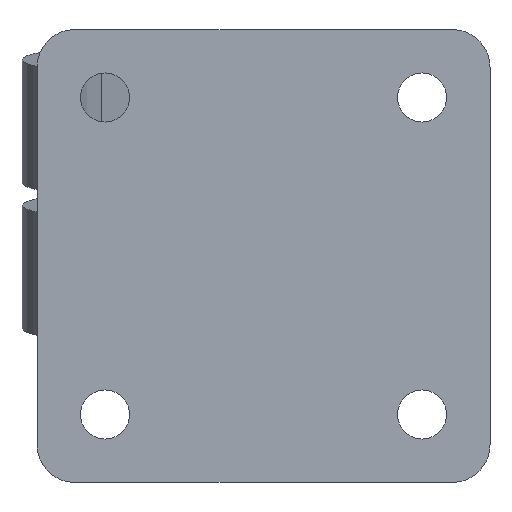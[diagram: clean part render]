
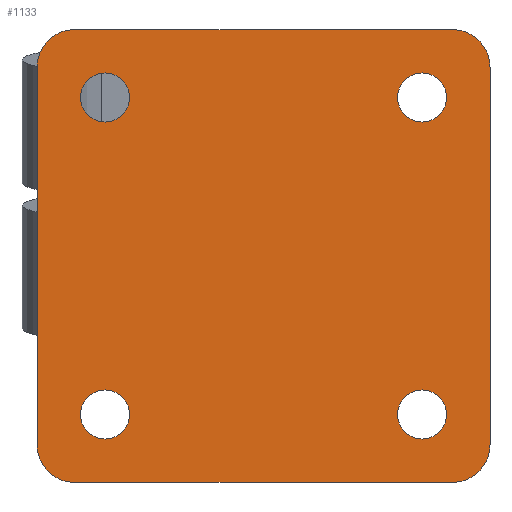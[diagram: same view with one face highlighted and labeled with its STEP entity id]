
A CAD part, front view. The second image highlights one B-rep face of the part: STEP entity #1133.
In plain terms, the highlighted planar face has unit normal (0, -1, 0).
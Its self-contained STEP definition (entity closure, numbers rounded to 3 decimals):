
#39=CARTESIAN_POINT('',(51.,0.,21.));
#40=DIRECTION('',(0.,-1.,0.));
#41=DIRECTION('',(1.,0.,0.));
#42=AXIS2_PLACEMENT_3D('',#39,#40,#41);
#48=CARTESIAN_POINT('',(51.,0.,21.));
#49=DIRECTION('',(0.,-1.,0.));
#50=DIRECTION('',(-1.,0.,0.));
#51=AXIS2_PLACEMENT_3D('',#48,#49,#50);
#56=CARTESIAN_POINT('',(51.,0.,-21.));
#57=DIRECTION('',(0.,-1.,0.));
#58=DIRECTION('',(1.,0.,0.));
#59=AXIS2_PLACEMENT_3D('',#56,#57,#58);
#64=CARTESIAN_POINT('',(51.,0.,-21.));
#65=DIRECTION('',(0.,-1.,0.));
#66=DIRECTION('',(-1.,0.,0.));
#67=AXIS2_PLACEMENT_3D('',#64,#65,#66);
#72=CARTESIAN_POINT('',(9.,0.,21.));
#73=DIRECTION('',(0.,-1.,0.));
#74=DIRECTION('',(1.,0.,0.));
#75=AXIS2_PLACEMENT_3D('',#72,#73,#74);
#80=CARTESIAN_POINT('',(9.,0.,21.));
#81=DIRECTION('',(0.,-1.,0.));
#82=DIRECTION('',(-1.,0.,0.));
#83=AXIS2_PLACEMENT_3D('',#80,#81,#82);
#88=CARTESIAN_POINT('',(9.,0.,-21.));
#89=DIRECTION('',(0.,-1.,0.));
#90=DIRECTION('',(1.,0.,0.));
#91=AXIS2_PLACEMENT_3D('',#88,#89,#90);
#96=CARTESIAN_POINT('',(9.,0.,-21.));
#97=DIRECTION('',(0.,-1.,0.));
#98=DIRECTION('',(-1.,0.,0.));
#99=AXIS2_PLACEMENT_3D('',#96,#97,#98);
#104=DIRECTION('',(0.,0.,1.));
#105=VECTOR('',#104,50.);
#106=CARTESIAN_POINT('',(0.,0.,-25.));
#107=LINE('',#106,#105);
#111=CARTESIAN_POINT('',(5.,0.,25.));
#112=DIRECTION('',(0.,1.,0.));
#113=DIRECTION('',(-1.,0.,0.));
#114=AXIS2_PLACEMENT_3D('',#111,#112,#113);
#119=DIRECTION('',(1.,0.,0.));
#120=VECTOR('',#119,50.);
#121=CARTESIAN_POINT('',(5.,0.,30.));
#122=LINE('',#121,#120);
#126=CARTESIAN_POINT('',(55.,0.,25.));
#127=DIRECTION('',(0.,1.,0.));
#128=DIRECTION('',(0.,0.,1.));
#129=AXIS2_PLACEMENT_3D('',#126,#127,#128);
#134=DIRECTION('',(0.,0.,-1.));
#135=VECTOR('',#134,50.);
#136=CARTESIAN_POINT('',(60.,0.,25.));
#137=LINE('',#136,#135);
#141=CARTESIAN_POINT('',(55.,0.,-25.));
#142=DIRECTION('',(0.,1.,0.));
#143=DIRECTION('',(1.,0.,0.));
#144=AXIS2_PLACEMENT_3D('',#141,#142,#143);
#149=DIRECTION('',(-1.,0.,0.));
#150=VECTOR('',#149,50.);
#151=CARTESIAN_POINT('',(55.,0.,-30.));
#152=LINE('',#151,#150);
#156=CARTESIAN_POINT('',(5.,0.,-25.));
#157=DIRECTION('',(0.,1.,0.));
#158=DIRECTION('',(0.,0.,-1.));
#159=AXIS2_PLACEMENT_3D('',#156,#157,#158);
#937=CARTESIAN_POINT('',(54.25,0.,21.));
#938=CARTESIAN_POINT('',(47.75,0.,21.));
#939=VERTEX_POINT('',#937);
#940=VERTEX_POINT('',#938);
#941=CARTESIAN_POINT('',(54.25,0.,-21.));
#942=CARTESIAN_POINT('',(47.75,0.,-21.));
#943=VERTEX_POINT('',#941);
#944=VERTEX_POINT('',#942);
#945=CARTESIAN_POINT('',(12.25,0.,21.));
#946=CARTESIAN_POINT('',(5.75,0.,21.));
#947=VERTEX_POINT('',#945);
#948=VERTEX_POINT('',#946);
#949=CARTESIAN_POINT('',(12.25,0.,-21.));
#950=CARTESIAN_POINT('',(5.75,0.,-21.));
#951=VERTEX_POINT('',#949);
#952=VERTEX_POINT('',#950);
#953=CARTESIAN_POINT('',(0.,0.,-25.));
#954=CARTESIAN_POINT('',(0.,0.,25.));
#955=VERTEX_POINT('',#953);
#956=VERTEX_POINT('',#954);
#957=CARTESIAN_POINT('',(5.,0.,30.));
#958=VERTEX_POINT('',#957);
#959=CARTESIAN_POINT('',(55.,0.,30.));
#960=VERTEX_POINT('',#959);
#961=CARTESIAN_POINT('',(60.,0.,25.));
#962=VERTEX_POINT('',#961);
#963=CARTESIAN_POINT('',(60.,0.,-25.));
#964=VERTEX_POINT('',#963);
#965=CARTESIAN_POINT('',(55.,0.,-30.));
#966=VERTEX_POINT('',#965);
#967=CARTESIAN_POINT('',(5.,0.,-30.));
#968=VERTEX_POINT('',#967);
#1086=CARTESIAN_POINT('',(0.,0.,0.));
#1087=DIRECTION('',(0.,1.,0.));
#1088=DIRECTION('',(1.,0.,0.));
#1089=AXIS2_PLACEMENT_3D('',#1086,#1087,#1088);
#1090=PLANE('',#1089);
#1092=ORIENTED_EDGE('',*,*,#1091,.T.);
#1094=ORIENTED_EDGE('',*,*,#1093,.T.);
#1096=ORIENTED_EDGE('',*,*,#1095,.T.);
#1098=ORIENTED_EDGE('',*,*,#1097,.T.);
#1100=ORIENTED_EDGE('',*,*,#1099,.T.);
#1102=ORIENTED_EDGE('',*,*,#1101,.T.);
#1104=ORIENTED_EDGE('',*,*,#1103,.T.);
#1106=ORIENTED_EDGE('',*,*,#1105,.T.);
#1107=EDGE_LOOP('',(#1092,#1094,#1096,#1098,#1100,#1102,#1104,#1106));
#1108=FACE_OUTER_BOUND('',#1107,.F.);
#1110=ORIENTED_EDGE('',*,*,#1109,.T.);
#1112=ORIENTED_EDGE('',*,*,#1111,.T.);
#1113=EDGE_LOOP('',(#1110,#1112));
#1114=FACE_BOUND('',#1113,.F.);
#1116=ORIENTED_EDGE('',*,*,#1115,.T.);
#1118=ORIENTED_EDGE('',*,*,#1117,.T.);
#1119=EDGE_LOOP('',(#1116,#1118));
#1120=FACE_BOUND('',#1119,.F.);
#1122=ORIENTED_EDGE('',*,*,#1121,.T.);
#1124=ORIENTED_EDGE('',*,*,#1123,.T.);
#1125=EDGE_LOOP('',(#1122,#1124));
#1126=FACE_BOUND('',#1125,.F.);
#1128=ORIENTED_EDGE('',*,*,#1127,.T.);
#1130=ORIENTED_EDGE('',*,*,#1129,.T.);
#1131=EDGE_LOOP('',(#1128,#1130));
#1132=FACE_BOUND('',#1131,.F.);
#1133=ADVANCED_FACE('',(#1108,#1114,#1120,#1126,#1132),#1090,.F.);
#43=CIRCLE('',#42,3.25);
#52=CIRCLE('',#51,3.25);
#60=CIRCLE('',#59,3.25);
#68=CIRCLE('',#67,3.25);
#76=CIRCLE('',#75,3.25);
#84=CIRCLE('',#83,3.25);
#92=CIRCLE('',#91,3.25);
#100=CIRCLE('',#99,3.25);
#115=CIRCLE('',#114,5.);
#130=CIRCLE('',#129,5.);
#145=CIRCLE('',#144,5.);
#160=CIRCLE('',#159,5.);
#1091=EDGE_CURVE('',#955,#956,#107,.T.);
#1093=EDGE_CURVE('',#956,#958,#115,.T.);
#1095=EDGE_CURVE('',#958,#960,#122,.T.);
#1097=EDGE_CURVE('',#960,#962,#130,.T.);
#1099=EDGE_CURVE('',#962,#964,#137,.T.);
#1101=EDGE_CURVE('',#964,#966,#145,.T.);
#1103=EDGE_CURVE('',#966,#968,#152,.T.);
#1105=EDGE_CURVE('',#968,#955,#160,.T.);
#1109=EDGE_CURVE('',#939,#940,#43,.T.);
#1111=EDGE_CURVE('',#940,#939,#52,.T.);
#1115=EDGE_CURVE('',#943,#944,#60,.T.);
#1117=EDGE_CURVE('',#944,#943,#68,.T.);
#1121=EDGE_CURVE('',#947,#948,#76,.T.);
#1123=EDGE_CURVE('',#948,#947,#84,.T.);
#1127=EDGE_CURVE('',#951,#952,#92,.T.);
#1129=EDGE_CURVE('',#952,#951,#100,.T.);
